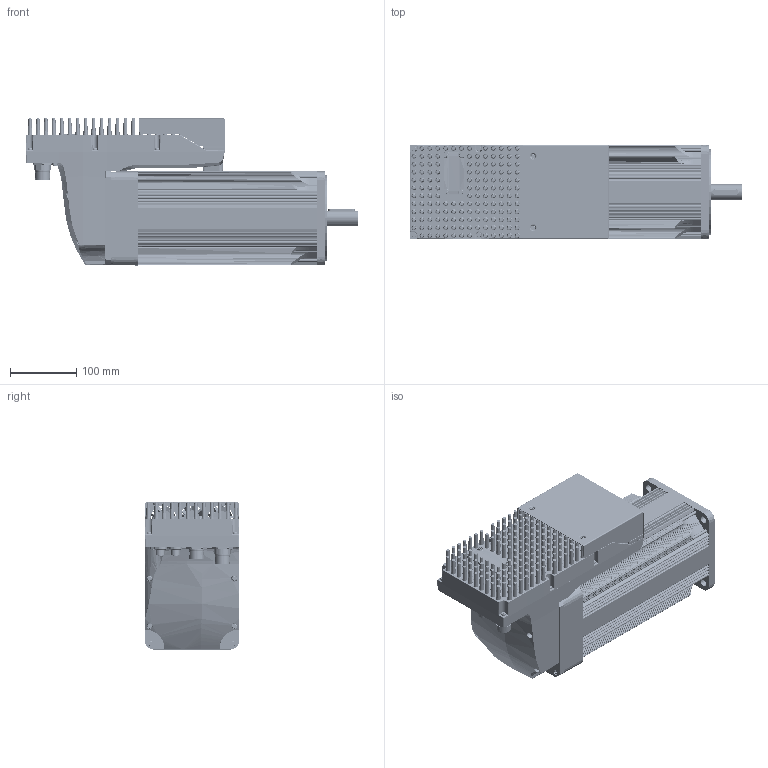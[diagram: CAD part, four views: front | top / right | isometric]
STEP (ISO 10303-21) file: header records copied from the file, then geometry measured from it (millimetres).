
FILE_DESCRIPTION( ( 'Unknown' ), '1' );
FILE_NAME( 'X:/Tecnico/ARCHIVIO PRODOTTI/11_DUET/DUET HV - CMZ/05_Disegni/DUET HV 142/Disegni DUET HV 142 - 3D step MPC/DUET.HV.142.16,5.xx.xx.1 E.1.stp', 'Unknown', ( 'Unknown' ), ( 'Unknown' ), 'PSStep 17.0.49', 'Unknown', ' ' );
FILE_SCHEMA( ( 'AUTOMOTIVE_DESIGN { 1 0 10303 214 1 1 1 1 }' ) );
Length unit declared in the file: millimetre
Products named in the file (82): J_7651000000; Connettore_M23_pot; J_7458000000; Connettore_M23_IO; J_7001919137; frutto 16+3; contatto_1mm; contatto_1.5.mm; LC091104.1.0; J_7084943101; JAC7010942001; JAC7010941001; LC101004.2.2.n; JS20MNQD6; JS26FSQ7; LT709037RLF1; UKSZ8721BLI; UET1100; JTP1633-2; PC101004.1.0; DLS5977701507; DLRR; DLRV; DWFR01FR10PS; LC091112.1.0; J_RKMHL4S55; PC091112.1.0; J_4301236; 005799000505; 005911003655; MD131106.2.0; 052410000001; MD201105.2.0; MD131108.2.0; MD131115.2.0; MD131109.2.0; dado_M8_lumberg; dado_M12_conec; Dado_M23_IO; V_VTCTX40X14A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
Assembly tree (149 placements, depth 5):
  Assem1
    003251006742
    005123001100
    005123001100
    005123001100
    005123001100
    005123001100
    005123001100
    005123001100
    005123001100
    005123001100
    005751000710
    005123000110
    005123000110
    005123000110
    005123000110
    005123000110
    005123000110
    005123000110
    005123000110
    005008000310  x3
    003103040122
    007803004340  x8
    005008000740
    005007000090
    anello di rasamento 40_46,5_0,5
    005755000080
    005911000550  x4
    005113000600
    MD201109.2.0
    003107003227
    005911000209  x4
    003155001000
    005911000218
    005008000668
    003151002130
    003003099192
    005119000990
    005119000990
    005799000505
      005911003655  x2
      MD131106.2.0
    052410000001
      MD201105.2.0
      MD131108.2.0
      MD131115.2.0
      MD131109.2.0
      dado_M8_lumberg
      dado_M12_conec  x2
      Dado_M23_IO  x2
      V_VTCTX40X14A  x8
      V_VTCTX3X6(8.8)  x6
      ALVDD4028M24BPLB2B-7  x3
      MD081003.2.0
      LC091104.1.0
        J_7084943101
        JAC7010942001  x3
        JAC7010941001  x4
        J_7001919137
          frutto 16+3
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Bounding box: 501.5 x 143.27 x 222.09 mm (x, y, z)
Volume: 3137009.2 mm3; surface area: 1472634.1 mm2
Topology: 141 solids, 141 shells, 12531 faces, 31352 edges, 19705 vertices
Faces by surface type: plane 5669, cylinder 3599, torus 1143, bspline 957, cone 874, sphere 271, revolution 16, extrusion 2
Full cylindrical faces by diameter (mm): 0.182 x20, 0.207 x3, 0.245 x1, 0.253 x40, 0.31 x2, 0.443 x6, 0.5 x4, 0.511 x2, 0.6 x52, 0.65 x6, 0.7 x16, 0.8 x102, 0.81 x2, 0.813 x15, 0.828 x2, 0.991 x58, 1 x56, 1.092 x20, 1.14 x2, 1.295 x8, 1.363 x1, 1.4 x6, 1.5 x3, 1.55 x2, 1.6 x8, 1.8 x4, 1.98 x2, 2 x55, 2.459 x16, 2.5 x10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
Entity records: 448561 total; most frequent: CARTESIAN_POINT 149010, ORIENTED_EDGE 44538, DIRECTION 44358, EDGE_CURVE 22269, AXIS2_PLACEMENT_3D 16743, VERTEX_POINT 14881, EDGE_LOOP 12583, FACE_OUTER_BOUND 10961
